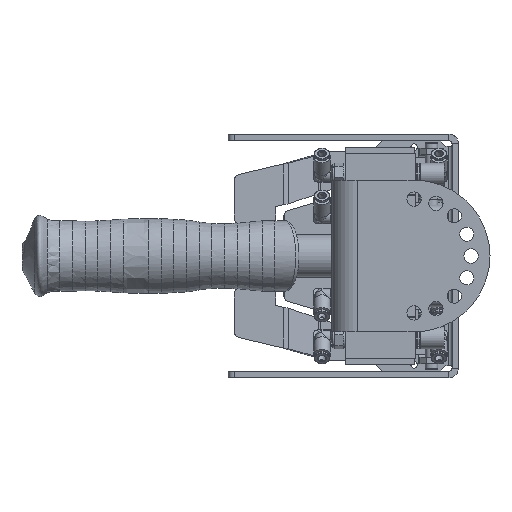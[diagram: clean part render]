
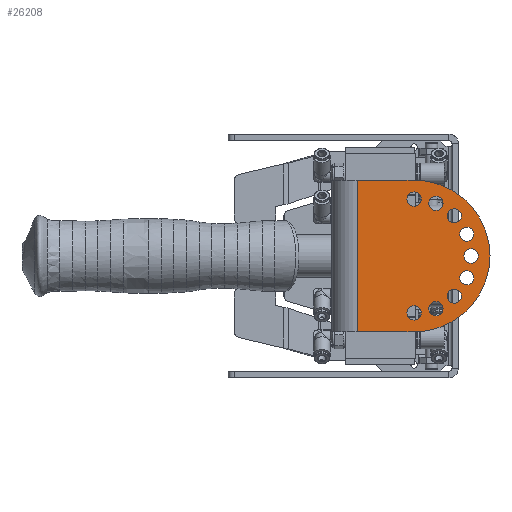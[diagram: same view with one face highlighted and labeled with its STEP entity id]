
A CAD part, front view. The second image highlights one B-rep face of the part: STEP entity #26208.
In plain terms, the highlighted planar face has unit normal (0, -1, 0).
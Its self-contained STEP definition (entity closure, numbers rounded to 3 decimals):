
#19339=LINE('',#88634,#22095);
#19340=LINE('',#88637,#22096);
#19341=LINE('',#88639,#22097);
#22095=VECTOR('',#67935,1.);
#22096=VECTOR('',#67936,1.);
#22097=VECTOR('',#67937,1.);
#23938=FACE_BOUND('',#32003,.T.);
#23939=FACE_BOUND('',#32004,.T.);
#23940=FACE_BOUND('',#32005,.T.);
#23941=FACE_BOUND('',#32006,.T.);
#23942=FACE_BOUND('',#32007,.T.);
#23943=FACE_BOUND('',#32008,.T.);
#23944=FACE_BOUND('',#32009,.T.);
#23945=FACE_BOUND('',#32010,.T.);
#23946=FACE_BOUND('',#32011,.T.);
#23947=FACE_BOUND('',#32012,.T.);
#26208=ADVANCED_FACE('',(#23938,#23939,#23940,#23941,#23942,#23943,#23944,
#23945,#23946,#23947),#27472,.F.);
#27472=PLANE('',#57082);
#32003=EDGE_LOOP('',(#42423));
#32004=EDGE_LOOP('',(#42424));
#32005=EDGE_LOOP('',(#42425));
#32006=EDGE_LOOP('',(#42426));
#32007=EDGE_LOOP('',(#42427));
#32008=EDGE_LOOP('',(#42428));
#32009=EDGE_LOOP('',(#42429));
#32010=EDGE_LOOP('',(#42430));
#32011=EDGE_LOOP('',(#42431));
#32012=EDGE_LOOP('',(#42432,#42433,#42434,#42435,#42436));
#42423=ORIENTED_EDGE('',*,*,#51156,.F.);
#42424=ORIENTED_EDGE('',*,*,#51157,.F.);
#42425=ORIENTED_EDGE('',*,*,#51158,.F.);
#42426=ORIENTED_EDGE('',*,*,#51159,.F.);
#42427=ORIENTED_EDGE('',*,*,#51160,.F.);
#42428=ORIENTED_EDGE('',*,*,#51161,.F.);
#42429=ORIENTED_EDGE('',*,*,#51162,.F.);
#42430=ORIENTED_EDGE('',*,*,#51163,.F.);
#42431=ORIENTED_EDGE('',*,*,#51164,.F.);
#42432=ORIENTED_EDGE('',*,*,#51165,.F.);
#42433=ORIENTED_EDGE('',*,*,#51166,.T.);
#42434=ORIENTED_EDGE('',*,*,#51167,.F.);
#42435=ORIENTED_EDGE('',*,*,#51168,.T.);
#42436=ORIENTED_EDGE('',*,*,#51169,.T.);
#45939=VERTEX_POINT('',#88617);
#45940=VERTEX_POINT('',#88619);
#45941=VERTEX_POINT('',#88621);
#45942=VERTEX_POINT('',#88623);
#45943=VERTEX_POINT('',#88625);
#45944=VERTEX_POINT('',#88627);
#45945=VERTEX_POINT('',#88629);
#45946=VERTEX_POINT('',#88631);
#45947=VERTEX_POINT('',#88633);
#45948=VERTEX_POINT('',#88635);
#45949=VERTEX_POINT('',#88636);
#45950=VERTEX_POINT('',#88638);
#45951=VERTEX_POINT('',#88640);
#45952=VERTEX_POINT('',#88642);
#51156=EDGE_CURVE('',#45939,#45939,#53019,.T.);
#51157=EDGE_CURVE('',#45940,#45940,#53020,.T.);
#51158=EDGE_CURVE('',#45941,#45941,#53021,.T.);
#51159=EDGE_CURVE('',#45942,#45942,#53022,.T.);
#51160=EDGE_CURVE('',#45943,#45943,#53023,.T.);
#51161=EDGE_CURVE('',#45944,#45944,#53024,.T.);
#51162=EDGE_CURVE('',#45945,#45945,#53025,.T.);
#51163=EDGE_CURVE('',#45946,#45946,#53026,.T.);
#51164=EDGE_CURVE('',#45947,#45947,#53027,.T.);
#51165=EDGE_CURVE('',#45948,#45949,#19339,.T.);
#51166=EDGE_CURVE('',#45948,#45950,#19340,.T.);
#51167=EDGE_CURVE('',#45951,#45950,#19341,.T.);
#51168=EDGE_CURVE('',#45951,#45952,#53028,.T.);
#51169=EDGE_CURVE('',#45952,#45949,#53029,.T.);
#53019=CIRCLE('',#57071,3.572);
#53020=CIRCLE('',#57072,3.572);
#53021=CIRCLE('',#57073,3.572);
#53022=CIRCLE('',#57074,3.572);
#53023=CIRCLE('',#57075,3.572);
#53024=CIRCLE('',#57076,3.572);
#53025=CIRCLE('',#57077,3.572);
#53026=CIRCLE('',#57078,3.572);
#53027=CIRCLE('',#57079,3.572);
#53028=CIRCLE('',#57080,38.1);
#53029=CIRCLE('',#57081,38.1);
#57071=AXIS2_PLACEMENT_3D('',#88616,#67917,#67918);
#57072=AXIS2_PLACEMENT_3D('',#88618,#67919,#67920);
#57073=AXIS2_PLACEMENT_3D('',#88620,#67921,#67922);
#57074=AXIS2_PLACEMENT_3D('',#88622,#67923,#67924);
#57075=AXIS2_PLACEMENT_3D('',#88624,#67925,#67926);
#57076=AXIS2_PLACEMENT_3D('',#88626,#67927,#67928);
#57077=AXIS2_PLACEMENT_3D('',#88628,#67929,#67930);
#57078=AXIS2_PLACEMENT_3D('',#88630,#67931,#67932);
#57079=AXIS2_PLACEMENT_3D('',#88632,#67933,#67934);
#57080=AXIS2_PLACEMENT_3D('',#88641,#67938,#67939);
#57081=AXIS2_PLACEMENT_3D('',#88643,#67940,#67941);
#57082=AXIS2_PLACEMENT_3D('',#88644,#67942,#67943);
#67917=DIRECTION('',(0.,-1.,0.));
#67918=DIRECTION('',(0.,0.,-1.));
#67919=DIRECTION('',(0.,-1.,0.));
#67920=DIRECTION('',(0.,0.,-1.));
#67921=DIRECTION('',(0.,-1.,0.));
#67922=DIRECTION('',(0.,0.,-1.));
#67923=DIRECTION('',(0.,-1.,0.));
#67924=DIRECTION('',(0.,0.,-1.));
#67925=DIRECTION('',(0.,-1.,0.));
#67926=DIRECTION('',(0.,0.,-1.));
#67927=DIRECTION('',(0.,-1.,0.));
#67928=DIRECTION('',(0.,0.,-1.));
#67929=DIRECTION('',(0.,-1.,0.));
#67930=DIRECTION('',(0.,0.,-1.));
#67931=DIRECTION('',(0.,-1.,0.));
#67932=DIRECTION('',(0.,0.,-1.));
#67933=DIRECTION('',(0.,-1.,0.));
#67934=DIRECTION('',(0.,0.,-1.));
#67935=DIRECTION('',(1.,0.,0.));
#67936=DIRECTION('',(0.,0.,-1.));
#67937=DIRECTION('',(-1.,0.,0.));
#67938=DIRECTION('',(0.,-1.,0.));
#67939=DIRECTION('',(0.,0.,-1.));
#67940=DIRECTION('',(0.,-1.,0.));
#67941=DIRECTION('',(0.,0.,-1.));
#67942=DIRECTION('',(0.,1.,0.));
#67943=DIRECTION('',(0.,0.,-1.));
#88616=CARTESIAN_POINT('',(144.462,-83.741,0.));
#88617=CARTESIAN_POINT('',(144.462,-83.741,-3.572));
#88618=CARTESIAN_POINT('',(142.287,-83.741,10.935));
#88619=CARTESIAN_POINT('',(142.287,-83.741,7.363));
#88620=CARTESIAN_POINT('',(136.093,-83.741,20.206));
#88621=CARTESIAN_POINT('',(136.093,-83.741,16.634));
#88622=CARTESIAN_POINT('',(126.823,-83.741,26.4));
#88623=CARTESIAN_POINT('',(126.823,-83.741,22.828));
#88624=CARTESIAN_POINT('',(115.887,-83.741,28.575));
#88625=CARTESIAN_POINT('',(115.887,-83.741,25.003));
#88626=CARTESIAN_POINT('',(142.287,-83.741,-10.935));
#88627=CARTESIAN_POINT('',(142.287,-83.741,-14.507));
#88628=CARTESIAN_POINT('',(136.093,-83.741,-20.206));
#88629=CARTESIAN_POINT('',(136.093,-83.741,-23.777));
#88630=CARTESIAN_POINT('',(126.823,-83.741,-26.4));
#88631=CARTESIAN_POINT('',(126.823,-83.741,-29.972));
#88632=CARTESIAN_POINT('',(115.887,-83.741,-28.575));
#88633=CARTESIAN_POINT('',(115.887,-83.741,-32.147));
#88634=CARTESIAN_POINT('',(153.987,-83.741,38.1));
#88635=CARTESIAN_POINT('',(87.313,-83.741,38.1));
#88636=CARTESIAN_POINT('',(115.887,-83.741,38.1));
#88637=CARTESIAN_POINT('',(87.313,-83.741,-82.55));
#88638=CARTESIAN_POINT('',(87.313,-83.741,-38.1));
#88639=CARTESIAN_POINT('',(153.987,-83.741,-38.1));
#88640=CARTESIAN_POINT('',(115.887,-83.741,-38.1));
#88641=CARTESIAN_POINT('',(115.887,-83.741,0.));
#88642=CARTESIAN_POINT('',(153.987,-83.741,0.));
#88643=CARTESIAN_POINT('',(115.887,-83.741,0.));
#88644=CARTESIAN_POINT('',(153.987,-83.741,-82.55));
